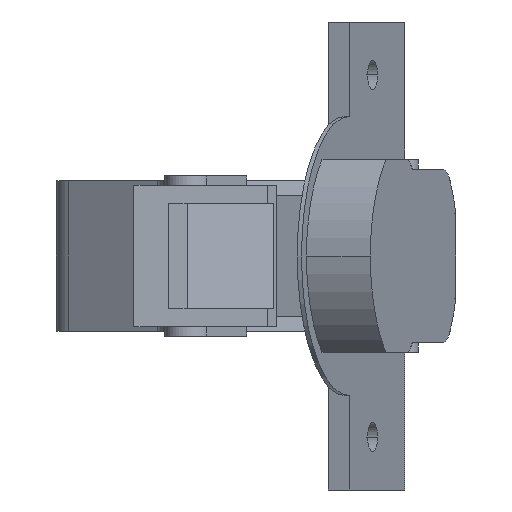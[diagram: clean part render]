
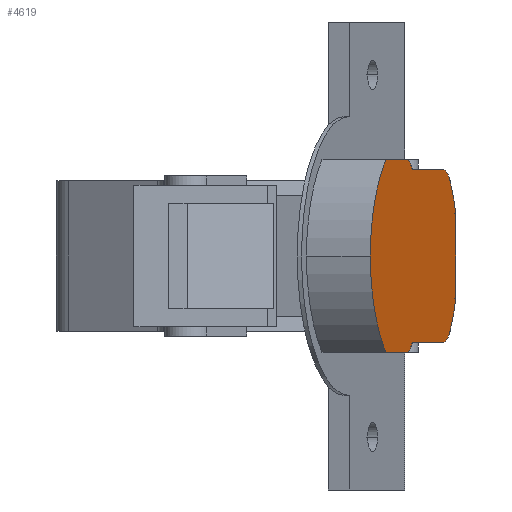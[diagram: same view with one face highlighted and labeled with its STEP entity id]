
A CAD part, front view. The second image highlights one B-rep face of the part: STEP entity #4619.
In plain terms, the highlighted planar face has unit normal (0.94, -0.342, 0).
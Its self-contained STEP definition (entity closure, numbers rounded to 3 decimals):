
#10 = CIRCLE ( 'NONE', #1463, 3.6 ) ;
#98 = AXIS2_PLACEMENT_3D ( 'NONE', #4883, #2412, #5209 ) ;
#129 = VERTEX_POINT ( 'NONE', #889 ) ;
#229 = DIRECTION ( 'NONE',  ( 0.242, 0.664, -0.707 ) ) ;
#464 = CIRCLE ( 'NONE', #98, 2.5 ) ;
#581 = VERTEX_POINT ( 'NONE', #3338 ) ;
#647 = CARTESIAN_POINT ( 'NONE',  ( 14.737, 45.627, 12. ) ) ;
#666 = CARTESIAN_POINT ( 'NONE',  ( 14.489, 44.946, 12.018 ) ) ;
#710 = DIRECTION ( 'NONE',  ( 0.94, -0.342, 0. ) ) ;
#728 = CARTESIAN_POINT ( 'NONE',  ( 20.38, 61.132, -5.602 ) ) ;
#734 = AXIS2_PLACEMENT_3D ( 'NONE', #1337, #5157, #4928 ) ;
#820 = CARTESIAN_POINT ( 'NONE',  ( 13.884, 43.285, 12.75 ) ) ;
#848 = CIRCLE ( 'NONE', #4884, 17.425 ) ;
#889 = CARTESIAN_POINT ( 'NONE',  ( 14.616, 45.295, -11.646 ) ) ;
#926 = EDGE_CURVE ( 'NONE', #3774, #3477, #4866, .T. ) ;
#936 = CARTESIAN_POINT ( 'NONE',  ( 18.617, 56.288, -11.5 ) ) ;
#949 = LINE ( 'NONE', #666, #1873 ) ;
#1038 = CARTESIAN_POINT ( 'NONE',  ( 9.07, 30.057, 0. ) ) ;
#1042 = DIRECTION ( 'NONE',  ( 0.342, 0.94, 0. ) ) ;
#1061 = DIRECTION ( 'NONE',  ( 0.342, 0.94, 0. ) ) ;
#1083 = CARTESIAN_POINT ( 'NONE',  ( 11.118, 35.683, -12.75 ) ) ;
#1120 = DIRECTION ( 'NONE',  ( 0., 0., 1. ) ) ;
#1129 = CIRCLE ( 'NONE', #1278, 17.425 ) ;
#1226 = AXIS2_PLACEMENT_3D ( 'NONE', #4004, #5161, #4777 ) ;
#1263 = ORIENTED_EDGE ( 'NONE', *, *, #4182, .F. ) ;
#1278 = AXIS2_PLACEMENT_3D ( 'NONE', #2674, #4719, #2345 ) ;
#1337 = CARTESIAN_POINT ( 'NONE',  ( 14.737, 45.627, -12. ) ) ;
#1389 = CARTESIAN_POINT ( 'NONE',  ( 14.737, 45.627, -11.5 ) ) ;
#1410 = CIRCLE ( 'NONE', #4146, 16.569 ) ;
#1428 = EDGE_CURVE ( 'NONE', #2023, #4637, #10, .T. ) ;
#1456 = AXIS2_PLACEMENT_3D ( 'NONE', #2114, #4982, #2555 ) ;
#1463 = AXIS2_PLACEMENT_3D ( 'NONE', #2983, #5302, #4973 ) ;
#1495 = ORIENTED_EDGE ( 'NONE', *, *, #2593, .F. ) ;
#1523 = VECTOR ( 'NONE', #4286, 1000. ) ;
#1544 = CARTESIAN_POINT ( 'NONE',  ( 11.118, 35.683, 12.75 ) ) ;
#1559 = VERTEX_POINT ( 'NONE', #2239 ) ;
#1578 = PLANE ( 'NONE',  #4103 ) ;
#1586 = EDGE_CURVE ( 'NONE', #1644, #4243, #1129, .T. ) ;
#1624 = EDGE_CURVE ( 'NONE', #4243, #1559, #4944, .T. ) ;
#1644 = VERTEX_POINT ( 'NONE', #2749 ) ;
#1645 = ORIENTED_EDGE ( 'NONE', *, *, #5179, .F. ) ;
#1649 = ORIENTED_EDGE ( 'NONE', *, *, #3499, .T. ) ;
#1855 = DIRECTION ( 'NONE',  ( 0.94, -0.342, 0. ) ) ;
#1873 = VECTOR ( 'NONE', #229, 1000. ) ;
#1890 = ORIENTED_EDGE ( 'NONE', *, *, #5346, .T. ) ;
#1892 = ORIENTED_EDGE ( 'NONE', *, *, #3513, .T. ) ;
#1933 = FACE_OUTER_BOUND ( 'NONE', #2363, .T. ) ;
#2023 = VERTEX_POINT ( 'NONE', #936 ) ;
#2071 = VECTOR ( 'NONE', #5051, 1000. ) ;
#2102 = ORIENTED_EDGE ( 'NONE', *, *, #5089, .F. ) ;
#2106 = EDGE_CURVE ( 'NONE', #3809, #129, #4924, .T. ) ;
#2114 = CARTESIAN_POINT ( 'NONE',  ( 13.884, 43.285, -10.25 ) ) ;
#2143 = VERTEX_POINT ( 'NONE', #3983 ) ;
#2239 = CARTESIAN_POINT ( 'NONE',  ( 18.617, 56.288, 11.5 ) ) ;
#2345 = DIRECTION ( 'NONE',  ( 0.342, 0.94, 0. ) ) ;
#2363 = EDGE_LOOP ( 'NONE', ( #3099, #1645, #2781, #4033, #1890, #1649, #3365, #2438, #1495, #2809, #1263, #3862, #4453, #1892, #4297, #4408, #2102 ) ) ;
#2412 = DIRECTION ( 'NONE',  ( 0.94, -0.342, 0. ) ) ;
#2435 = DIRECTION ( 'NONE',  ( -0.342, -0.94, 0. ) ) ;
#2438 = ORIENTED_EDGE ( 'NONE', *, *, #3206, .T. ) ;
#2451 = DIRECTION ( 'NONE',  ( 0.342, 0.94, 0. ) ) ;
#2460 = CARTESIAN_POINT ( 'NONE',  ( 11.118, 35.683, 12.75 ) ) ;
#2511 = AXIS2_PLACEMENT_3D ( 'NONE', #3267, #710, #3692 ) ;
#2555 = DIRECTION ( 'NONE',  ( 0.342, 0.94, 0. ) ) ;
#2589 = VECTOR ( 'NONE', #2435, 1000. ) ;
#2593 = EDGE_CURVE ( 'NONE', #129, #2743, #2643, .T. ) ;
#2594 = CARTESIAN_POINT ( 'NONE',  ( 14.737, 45.627, 0. ) ) ;
#2643 = LINE ( 'NONE', #4902, #2071 ) ;
#2669 = CARTESIAN_POINT ( 'NONE',  ( 13.884, 43.285, -12.75 ) ) ;
#2674 = CARTESIAN_POINT ( 'NONE',  ( 14.737, 45.627, 0. ) ) ;
#2743 = VERTEX_POINT ( 'NONE', #4269 ) ;
#2749 = CARTESIAN_POINT ( 'NONE',  ( 20.38, 61.132, 5.602 ) ) ;
#2781 = ORIENTED_EDGE ( 'NONE', *, *, #5212, .T. ) ;
#2809 = ORIENTED_EDGE ( 'NONE', *, *, #2106, .F. ) ;
#2892 = DIRECTION ( 'NONE',  ( 0.342, 0.94, 0. ) ) ;
#2946 = LINE ( 'NONE', #3186, #5271 ) ;
#2983 = CARTESIAN_POINT ( 'NONE',  ( 18.617, 56.288, -7.9 ) ) ;
#2989 = VERTEX_POINT ( 'NONE', #1544 ) ;
#3023 = DIRECTION ( 'NONE',  ( 0.342, 0.94, 0. ) ) ;
#3099 = ORIENTED_EDGE ( 'NONE', *, *, #5102, .F. ) ;
#3109 = VECTOR ( 'NONE', #2892, 1000. ) ;
#3116 = LINE ( 'NONE', #4519, #3402 ) ;
#3186 = CARTESIAN_POINT ( 'NONE',  ( 14.737, 45.627, 11.5 ) ) ;
#3206 = EDGE_CURVE ( 'NONE', #3774, #2743, #4760, .T. ) ;
#3267 = CARTESIAN_POINT ( 'NONE',  ( 14.737, 45.627, 0. ) ) ;
#3310 = AXIS2_PLACEMENT_3D ( 'NONE', #647, #3640, #1061 ) ;
#3313 = CARTESIAN_POINT ( 'NONE',  ( 19.628, 59.065, -9.957 ) ) ;
#3338 = CARTESIAN_POINT ( 'NONE',  ( 14.489, 44.946, 12.018 ) ) ;
#3365 = ORIENTED_EDGE ( 'NONE', *, *, #926, .F. ) ;
#3402 = VECTOR ( 'NONE', #1120, 1000. ) ;
#3413 = CARTESIAN_POINT ( 'NONE',  ( 14.737, 45.627, 11.5 ) ) ;
#3477 = VERTEX_POINT ( 'NONE', #1083 ) ;
#3499 = EDGE_CURVE ( 'NONE', #3884, #3477, #3776, .T. ) ;
#3513 = EDGE_CURVE ( 'NONE', #5232, #1644, #3116, .T. ) ;
#3590 = CIRCLE ( 'NONE', #3310, 0.5 ) ;
#3640 = DIRECTION ( 'NONE',  ( 0.94, -0.342, 0. ) ) ;
#3675 = LINE ( 'NONE', #5337, #1523 ) ;
#3692 = DIRECTION ( 'NONE',  ( 0.342, 0.94, 0. ) ) ;
#3774 = VERTEX_POINT ( 'NONE', #2669 ) ;
#3776 = CIRCLE ( 'NONE', #2511, 16.569 ) ;
#3809 = VERTEX_POINT ( 'NONE', #1389 ) ;
#3848 = EDGE_CURVE ( 'NONE', #4637, #5232, #848, .T. ) ;
#3862 = ORIENTED_EDGE ( 'NONE', *, *, #1428, .T. ) ;
#3884 = VERTEX_POINT ( 'NONE', #1038 ) ;
#3983 = CARTESIAN_POINT ( 'NONE',  ( 14.616, 45.295, 11.646 ) ) ;
#4004 = CARTESIAN_POINT ( 'NONE',  ( 18.617, 56.288, 7.9 ) ) ;
#4033 = ORIENTED_EDGE ( 'NONE', *, *, #5277, .F. ) ;
#4103 = AXIS2_PLACEMENT_3D ( 'NONE', #4540, #4906, #2451 ) ;
#4146 = AXIS2_PLACEMENT_3D ( 'NONE', #2594, #5344, #3023 ) ;
#4150 = VERTEX_POINT ( 'NONE', #820 ) ;
#4182 = EDGE_CURVE ( 'NONE', #2023, #3809, #3675, .T. ) ;
#4243 = VERTEX_POINT ( 'NONE', #4341 ) ;
#4269 = CARTESIAN_POINT ( 'NONE',  ( 14.489, 44.946, -12.018 ) ) ;
#4286 = DIRECTION ( 'NONE',  ( -0.342, -0.94, 0. ) ) ;
#4297 = ORIENTED_EDGE ( 'NONE', *, *, #1586, .T. ) ;
#4341 = CARTESIAN_POINT ( 'NONE',  ( 19.628, 59.065, 9.957 ) ) ;
#4407 = CARTESIAN_POINT ( 'NONE',  ( 14.737, 45.627, 0. ) ) ;
#4408 = ORIENTED_EDGE ( 'NONE', *, *, #1624, .T. ) ;
#4453 = ORIENTED_EDGE ( 'NONE', *, *, #3848, .T. ) ;
#4519 = CARTESIAN_POINT ( 'NONE',  ( 20.38, 61.132, -5.602 ) ) ;
#4540 = CARTESIAN_POINT ( 'NONE',  ( 14.737, 45.627, 12. ) ) ;
#4619 = ADVANCED_FACE ( 'NONE', ( #1933 ), #1578, .T. ) ;
#4637 = VERTEX_POINT ( 'NONE', #3313 ) ;
#4714 = LINE ( 'NONE', #2460, #3109 ) ;
#4719 = DIRECTION ( 'NONE',  ( 0.94, -0.342, 0. ) ) ;
#4760 = CIRCLE ( 'NONE', #1456, 2.5 ) ;
#4777 = DIRECTION ( 'NONE',  ( 0.342, 0.94, 0. ) ) ;
#4787 = DIRECTION ( 'NONE',  ( 0.342, 0.94, 0. ) ) ;
#4809 = VERTEX_POINT ( 'NONE', #3413 ) ;
#4847 = CARTESIAN_POINT ( 'NONE',  ( 13.884, 43.285, -12.75 ) ) ;
#4866 = LINE ( 'NONE', #4847, #2589 ) ;
#4883 = CARTESIAN_POINT ( 'NONE',  ( 13.884, 43.285, 10.25 ) ) ;
#4884 = AXIS2_PLACEMENT_3D ( 'NONE', #4407, #1855, #4787 ) ;
#4902 = CARTESIAN_POINT ( 'NONE',  ( 14.616, 45.295, -11.646 ) ) ;
#4906 = DIRECTION ( 'NONE',  ( 0.94, -0.342, 0. ) ) ;
#4924 = CIRCLE ( 'NONE', #734, 0.5 ) ;
#4928 = DIRECTION ( 'NONE',  ( 0.342, 0.94, 0. ) ) ;
#4944 = CIRCLE ( 'NONE', #1226, 3.6 ) ;
#4973 = DIRECTION ( 'NONE',  ( 0.342, 0.94, 0. ) ) ;
#4982 = DIRECTION ( 'NONE',  ( 0.94, -0.342, 0. ) ) ;
#5051 = DIRECTION ( 'NONE',  ( -0.242, -0.664, -0.707 ) ) ;
#5089 = EDGE_CURVE ( 'NONE', #4809, #1559, #2946, .T. ) ;
#5102 = EDGE_CURVE ( 'NONE', #2143, #4809, #3590, .T. ) ;
#5157 = DIRECTION ( 'NONE',  ( 0.94, -0.342, 0. ) ) ;
#5161 = DIRECTION ( 'NONE',  ( 0.94, -0.342, 0. ) ) ;
#5179 = EDGE_CURVE ( 'NONE', #581, #2143, #949, .T. ) ;
#5209 = DIRECTION ( 'NONE',  ( 0.342, 0.94, 0. ) ) ;
#5212 = EDGE_CURVE ( 'NONE', #581, #4150, #464, .T. ) ;
#5232 = VERTEX_POINT ( 'NONE', #728 ) ;
#5271 = VECTOR ( 'NONE', #1042, 1000. ) ;
#5277 = EDGE_CURVE ( 'NONE', #2989, #4150, #4714, .T. ) ;
#5302 = DIRECTION ( 'NONE',  ( 0.94, -0.342, 0. ) ) ;
#5337 = CARTESIAN_POINT ( 'NONE',  ( 18.617, 56.288, -11.5 ) ) ;
#5344 = DIRECTION ( 'NONE',  ( 0.94, -0.342, 0. ) ) ;
#5346 = EDGE_CURVE ( 'NONE', #2989, #3884, #1410, .T. ) ;
